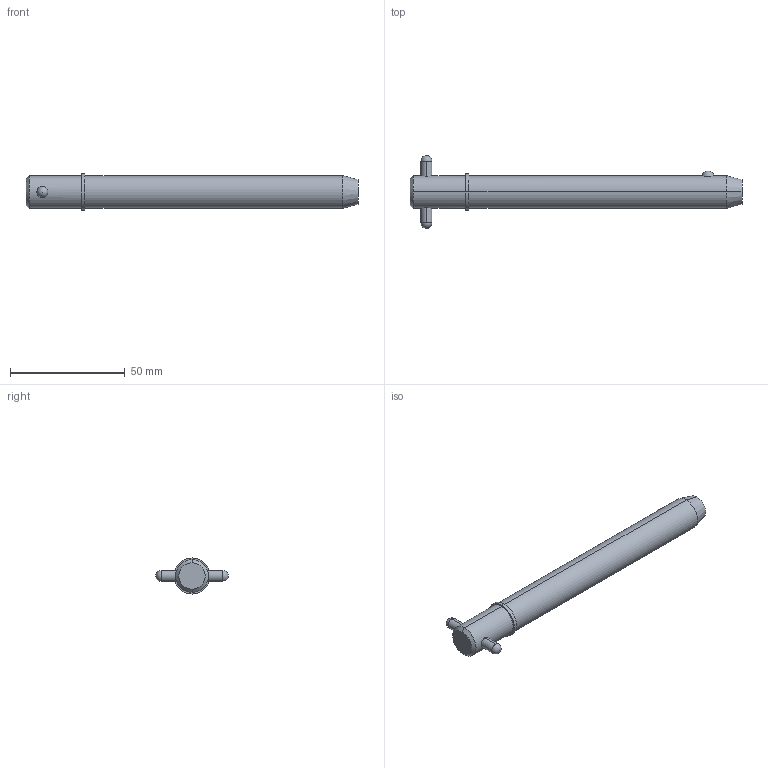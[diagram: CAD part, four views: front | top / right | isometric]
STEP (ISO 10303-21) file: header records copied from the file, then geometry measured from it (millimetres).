
FILE_DESCRIPTION (( 'STEP AP203' ), '1' );
FILE_NAME ('33018.W5640.step', '2024-11-19T17:17:07', ( '' ), ( '' ), 'SwSTEP 2.0', 'SolidWorks 2019', '' );
FILE_SCHEMA (( 'CONFIG_CONTROL_DESIGN' ));
Length unit declared in the file: millimetre
Products named in the file (3): Part1_33018.W5640; 33018.W5640; Part2_33018.W5640
Assembly tree (2 placements, depth 2):
  33018.W5640
    Part1_33018.W5640
    Part2_33018.W5640
Bounding box: 144.75 x 31.75 x 15.72 mm (x, y, z)
Volume: 23290.9 mm3; surface area: 7416.7 mm2
Topology: 2 solids, 2 shells, 22 faces, 47 edges, 30 vertices
Faces by surface type: cylinder 10, sphere 4, cone 4, plane 4
Entity records: 1033 total; most frequent: CARTESIAN_POINT 276, DIRECTION 110, ORIENTED_EDGE 82, AXIS2_PLACEMENT_3D 48, EDGE_CURVE 41, EDGE_LOOP 27, PERSON_AND_ORGANIZATION 26, VERTEX_POINT 26
